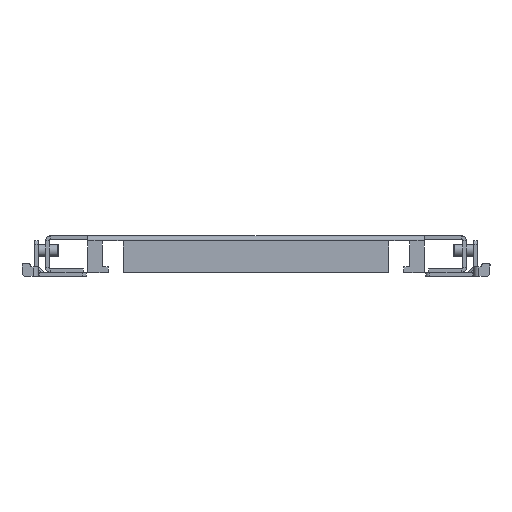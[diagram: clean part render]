
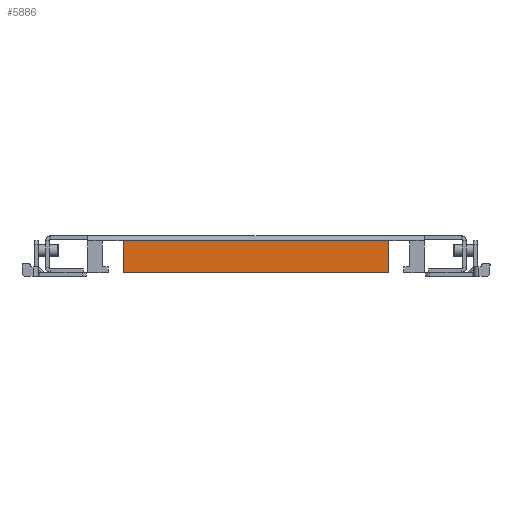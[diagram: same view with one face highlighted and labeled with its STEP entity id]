
A CAD part, front view. The second image highlights one B-rep face of the part: STEP entity #5886.
In plain terms, the highlighted planar face has unit normal (0, -1, 0).
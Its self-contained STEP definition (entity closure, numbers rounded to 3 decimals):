
#71 = LINE ( 'NONE', #7676, #4602 ) ;
#180 = EDGE_LOOP ( 'NONE', ( #6395, #11537, #8042, #961 ) ) ;
#228 = CARTESIAN_POINT ( 'NONE',  ( 52.6, 0., -1. ) ) ;
#318 = PLANE ( 'NONE',  #6500 ) ;
#961 = ORIENTED_EDGE ( 'NONE', *, *, #5734, .T. ) ;
#1196 = EDGE_CURVE ( 'NONE', #8036, #8283, #71, .T. ) ;
#1219 = EDGE_CURVE ( 'NONE', #8036, #8508, #11522, .T. ) ;
#1423 = LINE ( 'NONE', #8226, #10745 ) ;
#1444 = DIRECTION ( 'NONE',  ( -1., 0., 0. ) ) ;
#2153 = DIRECTION ( 'NONE',  ( 0., 0., -1. ) ) ;
#2853 = CARTESIAN_POINT ( 'NONE',  ( 52.6, 0., -22.5 ) ) ;
#2948 = VECTOR ( 'NONE', #4683, 1000. ) ;
#3212 = DIRECTION ( 'NONE',  ( 0., 0., 1. ) ) ;
#4239 = CARTESIAN_POINT ( 'NONE',  ( 232.4, 0., -1. ) ) ;
#4602 = VECTOR ( 'NONE', #3212, 1000. ) ;
#4683 = DIRECTION ( 'NONE',  ( -1., 0., 0. ) ) ;
#5618 = LINE ( 'NONE', #6437, #2948 ) ;
#5734 = EDGE_CURVE ( 'NONE', #8283, #8593, #5618, .T. ) ;
#5886 = ADVANCED_FACE ( 'NONE', ( #8717 ), #318, .T. ) ;
#6395 = ORIENTED_EDGE ( 'NONE', *, *, #8518, .T. ) ;
#6437 = CARTESIAN_POINT ( 'NONE',  ( 28.5, 0., -1. ) ) ;
#6500 = AXIS2_PLACEMENT_3D ( 'NONE', #6636, #7535, #2153 ) ;
#6636 = CARTESIAN_POINT ( 'NONE',  ( 28.5, 0., 0. ) ) ;
#7535 = DIRECTION ( 'NONE',  ( 0., -1., 0. ) ) ;
#7676 = CARTESIAN_POINT ( 'NONE',  ( 232.4, 0., -1. ) ) ;
#8036 = VERTEX_POINT ( 'NONE', #8444 ) ;
#8042 = ORIENTED_EDGE ( 'NONE', *, *, #1196, .T. ) ;
#8226 = CARTESIAN_POINT ( 'NONE',  ( 52.6, 0., -1. ) ) ;
#8283 = VERTEX_POINT ( 'NONE', #4239 ) ;
#8444 = CARTESIAN_POINT ( 'NONE',  ( 232.4, 0., -22.5 ) ) ;
#8508 = VERTEX_POINT ( 'NONE', #2853 ) ;
#8518 = EDGE_CURVE ( 'NONE', #8593, #8508, #1423, .T. ) ;
#8593 = VERTEX_POINT ( 'NONE', #228 ) ;
#8717 = FACE_OUTER_BOUND ( 'NONE', #180, .T. ) ;
#9095 = VECTOR ( 'NONE', #1444, 1000. ) ;
#9500 = CARTESIAN_POINT ( 'NONE',  ( 28.5, 0., -22.5 ) ) ;
#10061 = DIRECTION ( 'NONE',  ( 0., 0., -1. ) ) ;
#10745 = VECTOR ( 'NONE', #10061, 1000. ) ;
#11522 = LINE ( 'NONE', #9500, #9095 ) ;
#11537 = ORIENTED_EDGE ( 'NONE', *, *, #1219, .F. ) ;
